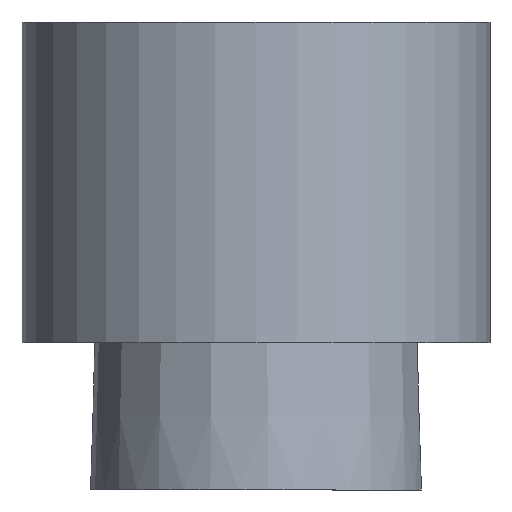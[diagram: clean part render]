
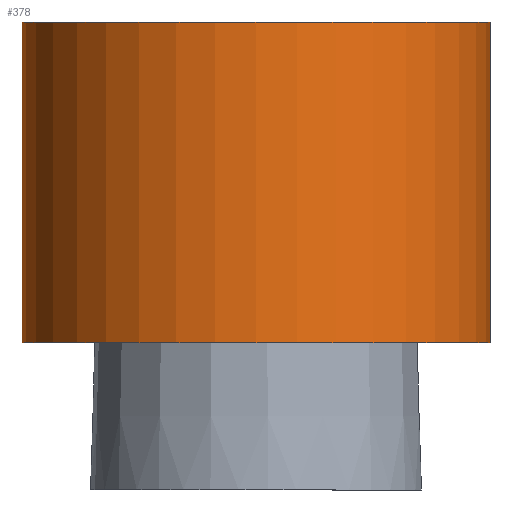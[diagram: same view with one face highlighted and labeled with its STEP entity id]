
A CAD part, front view. The second image highlights one B-rep face of the part: STEP entity #378.
In plain terms, the highlighted cylindrical face has radius 31.75 mm (diameter 63.5 mm), a full revolution.
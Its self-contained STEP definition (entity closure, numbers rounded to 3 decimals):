
#31=CYLINDRICAL_SURFACE($,#439,31.75);
#51=FACE_OUTER_BOUND($,#148,.T.);
#92=FACE_BOUND($,#149,.T.);
#148=EDGE_LOOP($,(#298));
#149=EDGE_LOOP($,(#299));
#181=CIRCLE($,#430,31.75);
#183=CIRCLE($,#434,31.75);
#211=VERTEX_POINT($,#646);
#213=VERTEX_POINT($,#652);
#241=EDGE_CURVE($,#211,#211,#181,.T.);
#243=EDGE_CURVE($,#213,#213,#183,.T.);
#298=ORIENTED_EDGE($,*,*,#241,.T.);
#299=ORIENTED_EDGE($,*,*,#243,.T.);
#378=ADVANCED_FACE($,(#51,#92),#31,.T.);
#430=AXIS2_PLACEMENT_3D($,#647,#537,#538);
#434=AXIS2_PLACEMENT_3D($,#653,#545,#546);
#439=AXIS2_PLACEMENT_3D($,#660,#555,#556);
#537=DIRECTION('center_axis',(0.,0.,1.));
#538=DIRECTION('ref_axis',(-1.,0.,0.));
#545=DIRECTION('center_axis',(0.,0.,-1.));
#546=DIRECTION('ref_axis',(-1.,0.,0.));
#555=DIRECTION('center_axis',(0.,0.,1.));
#556=DIRECTION('ref_axis',(-1.,0.,0.));
#646=CARTESIAN_POINT('',(31.75,0.,-21.75));
#647=CARTESIAN_POINT('Origin',(0.,0.,-21.75));
#652=CARTESIAN_POINT('',(31.75,0.,21.75));
#653=CARTESIAN_POINT('Origin',(0.,0.,21.75));
#660=CARTESIAN_POINT('Origin',(0.,0.,0.));
